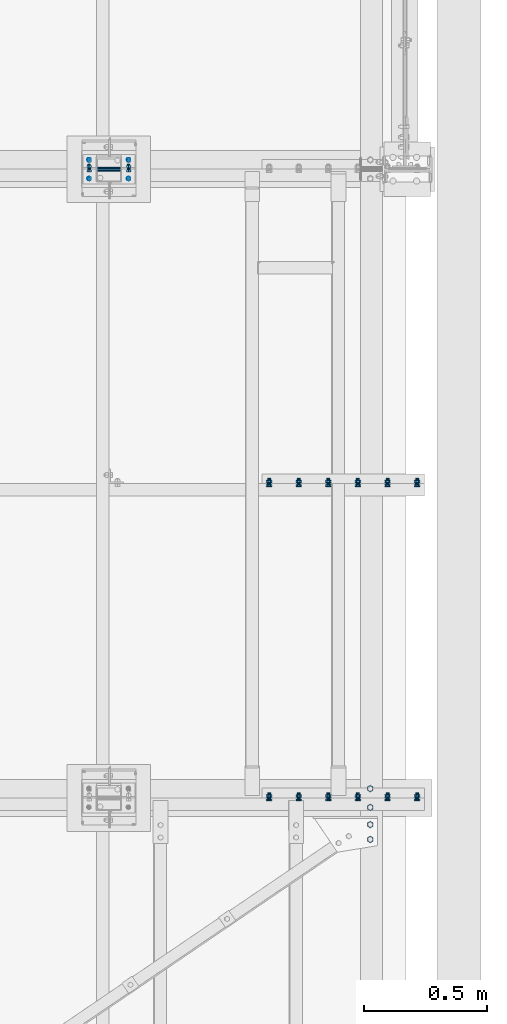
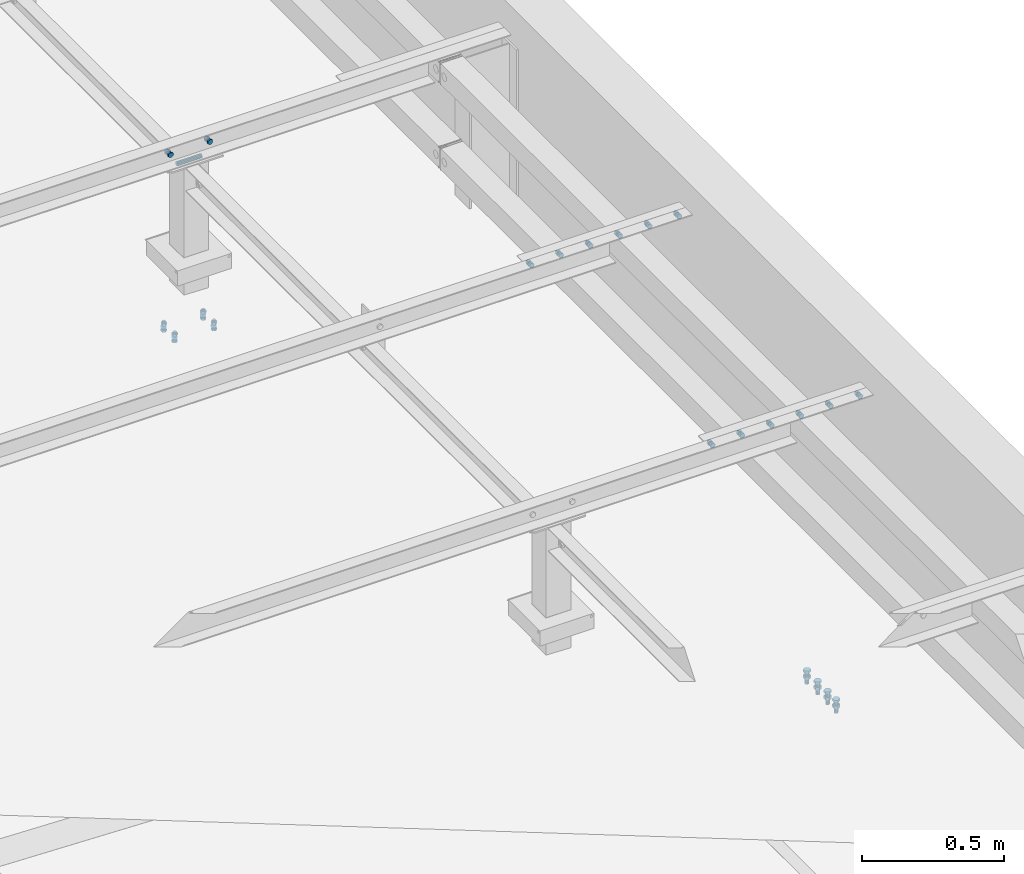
# One storey, part 344 of 3134: 7 mechanical fasteners, 7 elements without a shape of their own.
"""IFC2X3 building model written with IfcOpenShell, lengths in millimetres."""

from ifc_helpers import new_model, si_unit, frame, origin_with_axes, place, context, subcontext, project, spatial, faceted_brep, source, transform, mapped, material, type_object, element, aggregate, save


model = new_model("IFC2X3")

# Units and contexts
model_context = context("Model", 3, precision=1e-05, world=origin_with_axes())
body_context = subcontext(model_context, "Body", "Model", "MODEL_VIEW")
ifc_project = project(units=[si_unit("LENGTHUNIT", "METRE", prefix="MILLI"), si_unit("AREAUNIT", "SQUARE_METRE"), si_unit("VOLUMEUNIT", "CUBIC_METRE"), si_unit("MASSUNIT", "GRAM", prefix="KILO"), si_unit("TIMEUNIT", "SECOND"), si_unit("PLANEANGLEUNIT", "RADIAN"), si_unit("SOLIDANGLEUNIT", "STERADIAN"), si_unit("THERMODYNAMICTEMPERATUREUNIT", "DEGREE_CELSIUS"), si_unit("LUMINOUSINTENSITYUNIT", "LUMEN")], contexts=[model_context])

# Site, building, storey
site_placement = place(None, origin_with_axes())
site = spatial("IfcSite", under=ifc_project, at=site_placement, CompositionType="ELEMENT")
building_placement = place(site_placement, origin_with_axes())
building = spatial("IfcBuilding", under=site, at=building_placement, Name="Undefined", CompositionType="ELEMENT")
storey_placement = place(building_placement, origin_with_axes())
storey = spatial("IfcBuildingStorey", under=building, at=storey_placement, Name="Undefined", CompositionType="ELEMENT", Elevation=0.0)

# Assembly, mechanical fastener
assembly_1_placement = place(storey_placement, origin_with_axes())
assembly_1 = element("IfcElementAssembly", 1, at=assembly_1_placement, inside=storey, AssemblyPlace="NOTDEFINED", PredefinedType="RIGID_FRAME")
ifc_material = material(Name="8.8")
mechanical_fastener_type = type_object("IfcMechanicalFastenerType", Name="Bolt assembly")
shared_shape_1 = source(origin_with_axes(), body_context, "Body", "Brep", [
    faceted_brep([(7.0, 13.0000253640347, 0.0), (6.06217782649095, 13.0000253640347, 3.50000000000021), (3.49999999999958, 13.0000253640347, 6.06217782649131), (-7.25435187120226e-13, 13.0000253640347, 7.0), (-3.50000000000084, 13.0000253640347, 6.06217782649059), (-6.06217782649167, 13.0000253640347, 3.49999999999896), (-7.0, 13.0000253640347, -1.45087037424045e-12), (-6.06217782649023, 13.0000253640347, -3.50000000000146), (-3.49999999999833, 13.0000253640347, -6.06217782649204), (2.1685340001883e-12, 13.0000253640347, -7.0), (3.50000000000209, 13.0000253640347, -6.06217782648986), (6.0621778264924, 13.0000253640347, -3.4999999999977), (6.0621778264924, 15.0999999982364, -3.4999999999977), (3.50000000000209, 15.0999999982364, -6.06217782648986), (2.1685340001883e-12, 15.0999999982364, -7.0), (-3.49999999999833, 15.0999999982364, -6.06217782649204), (-6.06217782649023, 15.0999999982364, -3.50000000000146), (-7.0, 15.0999999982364, -1.45087037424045e-12), (-6.06217782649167, 15.0999999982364, 3.49999999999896), (-3.50000000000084, 15.0999999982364, 6.06217782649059), (-7.25435187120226e-13, 15.0999999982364, 7.0), (3.49999999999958, 15.0999999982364, 6.06217782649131), (6.06217782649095, 15.0999999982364, 3.50000000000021), (7.0, 15.0999999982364, 0.0)], [[[0, 1, 2, 3, 4, 5, 6, 7, 8, 9, 10, 11]], [[12, 13, 14, 15, 16, 17, 18, 19, 20, 21, 22, 23]], [[0, 23, 22, 1]], [[1, 22, 21, 2]], [[2, 21, 20, 3]], [[3, 20, 19, 4]], [[4, 19, 18, 5]], [[5, 18, 17, 6]], [[6, 17, 16, 7]], [[7, 16, 15, 8]], [[8, 15, 14, 9]], [[9, 14, 13, 10]], [[10, 13, 12, 11]], [[11, 12, 23, 0]]]),
])
mechanical_fastener_1_placement = place(assembly_1_placement, frame((78024.3451187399, 7688.0, 5102.2772055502), z_axis=(-0.99951962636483, 0.0, 0.0309922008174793), x_axis=(0.0, -1.0, 0.0)))
mechanical_fastener_1 = element("IfcMechanicalFastener", 2, at=mechanical_fastener_1_placement, type_object=mechanical_fastener_type, material=ifc_material, Name="Bolt assembly", NominalDiameter=12.0, NominalLength=2.0, context=body_context, shape_type="MappedRepresentation", body=[
    mapped(shared_shape_1, transform((0.0, -5.32963895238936e-10, -79.9999999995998))),
    mapped(shared_shape_1, transform((76.0, -5.32963895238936e-10, -79.9999999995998))),
    mapped(shared_shape_1, transform((0.0, 5.3114490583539e-10, 79.9999999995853))),
    mapped(shared_shape_1, transform((76.0, 5.3114490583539e-10, 79.9999999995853))),
])
aggregate(assembly_1, [mechanical_fastener_1])

assembly_2_placement = place(storey_placement, origin_with_axes())
assembly_2 = element("IfcElementAssembly", 3, at=assembly_2_placement, inside=storey, AssemblyPlace="NOTDEFINED", PredefinedType="RIGID_FRAME")
shared_shape_2 = source(origin_with_axes(), body_context, "Body", "Brep", [
    faceted_brep([(9.0, -50.0, 0.0), (7.79422863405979, -50.0, 4.50000000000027), (4.49999999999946, -50.0, 7.79422863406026), (-9.3270238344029e-13, -50.0, 9.0), (-4.50000000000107, -50.0, 7.79422863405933), (-7.79422863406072, -50.0, 4.49999999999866), (-9.0, -50.0, -1.86540476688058e-12), (-7.79422863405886, -50.0, -4.50000000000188), (-4.49999999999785, -50.0, -7.79422863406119), (2.78811514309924e-12, -50.0, -9.0), (4.50000000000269, -50.0, -7.7942286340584), (7.79422863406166, -50.0, -4.49999999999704), (7.79422863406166, 50.1, -4.49999999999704), (4.50000000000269, 50.1, -7.7942286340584), (2.78811514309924e-12, 50.1, -9.0), (-4.49999999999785, 50.1, -7.79422863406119), (-7.79422863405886, 50.1, -4.50000000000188), (-9.0, 50.1, -1.86540476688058e-12), (-7.79422863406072, 50.1, 4.49999999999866), (-4.50000000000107, 50.1, 7.79422863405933), (-9.3270238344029e-13, 50.1, 9.0), (4.49999999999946, 50.1, 7.79422863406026), (7.79422863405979, 50.1, 4.50000000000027), (9.0, 50.1, 0.0)], [[[0, 1, 2, 3, 4, 5, 6, 7, 8, 9, 10, 11]], [[12, 13, 14, 15, 16, 17, 18, 19, 20, 21, 22, 23]], [[0, 23, 22, 1]], [[1, 22, 21, 2]], [[2, 21, 20, 3]], [[3, 20, 19, 4]], [[4, 19, 18, 5]], [[5, 18, 17, 6]], [[6, 17, 16, 7]], [[7, 16, 15, 8]], [[8, 15, 14, 9]], [[9, 14, 13, 10]], [[10, 13, 12, 11]], [[11, 12, 23, 0]]]),
])
mechanical_fastener_2_placement = place(assembly_2_placement, frame((78025.0, 7650.0, 5830.0), z_axis=(0.0, 1.0, 0.0), x_axis=(0.0, 0.0, 1.0)))
mechanical_fastener_2 = element("IfcMechanicalFastener", 4, at=mechanical_fastener_2_placement, type_object=mechanical_fastener_type, material=ifc_material, Name="Bolt assembly", NominalDiameter=16.0, NominalLength=100.0, context=body_context, shape_type="MappedRepresentation", body=[
    mapped(shared_shape_2, transform((0.0, 0.0, 0.0))),
])
aggregate(assembly_2, [mechanical_fastener_2])

assembly_3_placement = place(storey_placement, origin_with_axes())
assembly_3 = element("IfcElementAssembly", 5, at=assembly_3_placement, inside=storey, AssemblyPlace="NOTDEFINED", PredefinedType="RIGID_FRAME")
shared_shape_3 = source(origin_with_axes(), body_context, "Body", "Brep", [
    faceted_brep([(10.9696551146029, -12.0, 0.0), (5.48482755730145, -12.0, 9.5), (-5.48482755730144, -12.0, 9.5), (-10.9696551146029, -12.0, 1.34339530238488e-15), (-5.48482755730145, -12.0, -9.5), (5.48482755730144, -12.0, -9.50000000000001), (5.48482755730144, -4.0, -9.50000000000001), (-5.48482755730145, -4.0, -9.5), (-10.9696551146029, -4.0, 1.34339530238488e-15), (-5.48482755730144, -4.0, 9.5), (5.48482755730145, -4.0, 9.5), (10.9696551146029, -4.0, 0.0), (6.0, -4.0, 0.0), (5.19615242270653, -4.0, 3.00000000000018), (2.99999999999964, -4.0, 5.19615242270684), (-6.21801588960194e-13, -4.0, 6.0), (-3.00000000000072, -4.0, 5.19615242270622), (-5.19615242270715, -4.0, 2.9999999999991), (-6.0, -4.0, -1.24360317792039e-12), (-5.19615242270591, -4.0, -3.00000000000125), (-2.99999999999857, -4.0, -5.19615242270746), (1.85874342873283e-12, -4.0, -6.0), (3.00000000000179, -4.0, -5.1961524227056), (5.19615242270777, -4.0, -2.99999999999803), (5.19615242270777, 21.0, -2.99999999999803), (3.00000000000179, 21.0, -5.1961524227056), (1.85874342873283e-12, 21.0, -6.0), (-2.99999999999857, 21.0, -5.19615242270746), (-5.19615242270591, 21.0, -3.00000000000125), (-6.0, 21.0, -1.24360317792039e-12), (-5.19615242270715, 21.0, 2.9999999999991), (-3.00000000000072, 21.0, 5.19615242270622), (-6.21801588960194e-13, 21.0, 6.0), (2.99999999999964, 21.0, 5.19615242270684), (5.19615242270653, 21.0, 3.00000000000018), (6.0, 21.0, 0.0), (10.9696551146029, 6.00000000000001, 0.0), (5.48482755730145, 6.00000000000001, 9.5), (-5.48482755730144, 6.00000000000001, 9.5), (-10.9696551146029, 6.00000000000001, 1.34339530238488e-15), (-5.48482755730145, 6.00000000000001, -9.5), (5.48482755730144, 6.00000000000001, -9.50000000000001), (5.48482755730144, 16.0, -9.50000000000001), (-5.48482755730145, 16.0, -9.5), (-10.9696551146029, 16.0, 1.34339530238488e-15), (-5.48482755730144, 16.0, 9.5), (5.48482755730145, 16.0, 9.5), (10.9696551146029, 16.0, 0.0)], [[[0, 1, 2, 3, 4, 5]], [[6, 7, 8, 9, 10, 11]], [[0, 11, 10, 1]], [[1, 10, 9, 2]], [[2, 9, 8, 3]], [[3, 8, 7, 4]], [[4, 7, 6, 5]], [[5, 6, 11, 0]], [[12, 13, 14, 15, 16, 17, 18, 19, 20, 21, 22, 23]], [[24, 25, 26, 27, 28, 29, 30, 31, 32, 33, 34, 35]], [[12, 35, 34, 13]], [[13, 34, 33, 14]], [[14, 33, 32, 15]], [[15, 32, 31, 16]], [[16, 31, 30, 17]], [[17, 30, 29, 18]], [[18, 29, 28, 19]], [[19, 28, 27, 20]], [[20, 27, 26, 21]], [[21, 26, 25, 22]], [[22, 25, 24, 23]], [[23, 24, 35, 12]], [[36, 37, 38, 39, 40, 41]], [[42, 43, 44, 45, 46, 47]], [[36, 47, 46, 37]], [[37, 46, 45, 38]], [[38, 45, 44, 39]], [[39, 44, 43, 40]], [[40, 43, 42, 41]], [[41, 42, 47, 36]]]),
    faceted_brep([(7.0, -3.9, 0.0), (6.06217782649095, -3.9, 3.50000000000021), (3.49999999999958, -3.9, 6.06217782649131), (-7.25435187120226e-13, -3.9, 7.0), (-3.50000000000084, -3.9, 6.06217782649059), (-6.06217782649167, -3.9, 3.49999999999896), (-7.0, -3.9, -1.45087037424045e-12), (-6.06217782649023, -3.9, -3.50000000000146), (-3.49999999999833, -3.9, -6.06217782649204), (2.1685340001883e-12, -3.9, -7.0), (3.50000000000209, -3.9, -6.06217782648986), (6.0621778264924, -3.9, -3.4999999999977), (6.0621778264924, 0.0999999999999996, -3.4999999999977), (3.50000000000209, 0.0999999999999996, -6.06217782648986), (2.1685340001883e-12, 0.0999999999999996, -7.0), (-3.49999999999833, 0.0999999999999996, -6.06217782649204), (-6.06217782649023, 0.0999999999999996, -3.50000000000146), (-7.0, 0.0999999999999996, -1.45087037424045e-12), (-6.06217782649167, 0.0999999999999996, 3.49999999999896), (-3.50000000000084, 0.0999999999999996, 6.06217782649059), (-7.25435187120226e-13, 0.0999999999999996, 7.0), (3.49999999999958, 0.0999999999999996, 6.06217782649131), (6.06217782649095, 0.0999999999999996, 3.50000000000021), (7.0, 0.0999999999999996, 0.0), (7.0, -0.1, 0.0), (6.06217782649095, -0.1, 3.50000000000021), (3.49999999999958, -0.1, 6.06217782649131), (-7.25435187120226e-13, -0.1, 7.0), (-3.50000000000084, -0.1, 6.06217782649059), (-6.06217782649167, -0.1, 3.49999999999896), (-7.0, -0.1, -1.45087037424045e-12), (-6.06217782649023, -0.1, -3.50000000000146), (-3.49999999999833, -0.1, -6.06217782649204), (2.1685340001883e-12, -0.1, -7.0), (3.50000000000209, -0.1, -6.06217782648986), (6.0621778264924, -0.1, -3.4999999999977), (6.0621778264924, 6.00000000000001, -3.4999999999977), (3.50000000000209, 6.00000000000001, -6.06217782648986), (2.1685340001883e-12, 6.00000000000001, -7.0), (-3.49999999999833, 6.00000000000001, -6.06217782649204), (-6.06217782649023, 6.00000000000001, -3.50000000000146), (-7.0, 6.00000000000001, -1.45087037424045e-12), (-6.06217782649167, 6.00000000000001, 3.49999999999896), (-3.50000000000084, 6.00000000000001, 6.06217782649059), (-7.25435187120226e-13, 6.00000000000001, 7.0), (3.49999999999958, 6.00000000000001, 6.06217782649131), (6.06217782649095, 6.00000000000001, 3.50000000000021), (7.0, 6.00000000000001, 0.0)], [[[0, 1, 2, 3, 4, 5, 6, 7, 8, 9, 10, 11]], [[12, 13, 14, 15, 16, 17, 18, 19, 20, 21, 22, 23]], [[0, 23, 22, 1]], [[1, 22, 21, 2]], [[2, 21, 20, 3]], [[3, 20, 19, 4]], [[4, 19, 18, 5]], [[5, 18, 17, 6]], [[6, 17, 16, 7]], [[7, 16, 15, 8]], [[8, 15, 14, 9]], [[9, 14, 13, 10]], [[10, 13, 12, 11]], [[11, 12, 23, 0]], [[24, 25, 26, 27, 28, 29, 30, 31, 32, 33, 34, 35]], [[36, 37, 38, 39, 40, 41, 42, 43, 44, 45, 46, 47]], [[24, 47, 46, 25]], [[25, 46, 45, 26]], [[26, 45, 44, 27]], [[27, 44, 43, 28]], [[28, 43, 42, 29]], [[29, 42, 41, 30]], [[30, 41, 40, 31]], [[31, 40, 39, 32]], [[32, 39, 38, 33]], [[33, 38, 37, 34]], [[34, 37, 36, 35]], [[35, 36, 47, 24]]]),
])
mechanical_fastener_3_placement = place(assembly_3_placement, frame((78025.0, 7650.0, 5885.0), z_axis=(1.0, 0.0, 0.0), x_axis=(0.0, 0.0, -1.0)))
mechanical_fastener_3 = element("IfcMechanicalFastener", 6, at=mechanical_fastener_3_placement, type_object=mechanical_fastener_type, material=ifc_material, Name="Bolt assembly", NominalDiameter=12.0, NominalLength=25.0, context=body_context, shape_type="MappedRepresentation", body=[
    mapped(shared_shape_3, transform((0.0, -5.32963895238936e-10, -79.9999999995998))),
    mapped(shared_shape_3, transform((0.0, 5.3114490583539e-10, 79.9999999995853))),
])
aggregate(assembly_3, [mechanical_fastener_3])

assembly_4_placement = place(storey_placement, origin_with_axes())
assembly_4 = element("IfcElementAssembly", 7, at=assembly_4_placement, inside=storey, Name="UPN260", AssemblyPlace="NOTDEFINED", PredefinedType="RIGID_FRAME")
shared_shape_4 = source(origin_with_axes(), body_context, "Body", "Brep", [
    faceted_brep([(13.856406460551, -10.0, 0.0), (6.92820323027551, -10.0, 12.0), (-6.92820323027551, -10.0, 12.0), (-13.856406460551, -10.0, 1.69692038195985e-15), (-6.92820323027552, -10.0, -12.0), (6.9282032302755, -10.0, -12.0), (6.9282032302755, 0.0, -12.0), (-6.92820323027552, 0.0, -12.0), (-13.856406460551, 0.0, 1.69692038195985e-15), (-6.92820323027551, 0.0, 12.0), (6.92820323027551, 0.0, 12.0), (13.856406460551, 0.0, 0.0), (8.0, 0.0, 0.0), (6.92820323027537, 0.0, 4.00000000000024), (3.99999999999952, 0.0, 6.92820323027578), (-8.29068785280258e-13, 0.0, 8.0), (-4.00000000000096, 0.0, 6.92820323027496), (-6.9282032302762, 0.0, 3.99999999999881), (-8.0, 0.0, -1.65813757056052e-12), (-6.92820323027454, 0.0, -4.00000000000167), (-3.99999999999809, 0.0, -6.92820323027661), (2.47832457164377e-12, 0.0, -8.0), (4.00000000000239, 0.0, -6.92820323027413), (6.92820323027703, 0.0, -3.99999999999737), (6.92820323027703, 49.9999999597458, -3.99999999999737), (4.00000000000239, 49.9999999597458, -6.92820323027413), (2.47832457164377e-12, 49.9999999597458, -8.0), (-3.99999999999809, 49.9999999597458, -6.92820323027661), (-6.92820323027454, 49.9999999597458, -4.00000000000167), (-8.0, 49.9999999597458, -1.65813757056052e-12), (-6.9282032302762, 49.9999999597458, 3.99999999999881), (-4.00000000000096, 49.9999999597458, 6.92820323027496), (-8.29068785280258e-13, 49.9999999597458, 8.0), (3.99999999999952, 49.9999999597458, 6.92820323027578), (6.92820323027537, 49.9999999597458, 4.00000000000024), (8.0, 49.9999999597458, 0.0), (13.856406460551, 13.9999999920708, 0.0), (6.92820323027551, 13.9999999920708, 12.0), (-6.92820323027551, 13.9999999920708, 12.0), (-13.856406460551, 13.9999999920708, 1.69692038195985e-15), (-6.92820323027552, 13.9999999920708, -12.0), (6.9282032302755, 13.9999999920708, -12.0), (6.9282032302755, 27.0, -12.0), (-6.92820323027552, 27.0, -12.0), (-13.856406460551, 27.0, 1.69692038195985e-15), (-6.92820323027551, 27.0, 12.0), (6.92820323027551, 27.0, 12.0), (13.856406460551, 27.0, 0.0)], [[[0, 1, 2, 3, 4, 5]], [[6, 7, 8, 9, 10, 11]], [[0, 11, 10, 1]], [[1, 10, 9, 2]], [[2, 9, 8, 3]], [[3, 8, 7, 4]], [[4, 7, 6, 5]], [[5, 6, 11, 0]], [[12, 13, 14, 15, 16, 17, 18, 19, 20, 21, 22, 23]], [[24, 25, 26, 27, 28, 29, 30, 31, 32, 33, 34, 35]], [[12, 35, 34, 13]], [[13, 34, 33, 14]], [[14, 33, 32, 15]], [[15, 32, 31, 16]], [[16, 31, 30, 17]], [[17, 30, 29, 18]], [[18, 29, 28, 19]], [[19, 28, 27, 20]], [[20, 27, 26, 21]], [[21, 26, 25, 22]], [[22, 25, 24, 23]], [[23, 24, 35, 12]], [[36, 37, 38, 39, 40, 41]], [[42, 43, 44, 45, 46, 47]], [[36, 47, 46, 37]], [[37, 46, 45, 38]], [[38, 45, 44, 39]], [[39, 44, 43, 40]], [[40, 43, 42, 41]], [[41, 42, 47, 36]]]),
    faceted_brep([(9.0, -3.46568413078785e-07, 0.0), (7.79422863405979, -3.46568413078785e-07, 4.50000000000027), (4.49999999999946, -3.46568413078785e-07, 7.79422863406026), (-9.3270238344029e-13, -3.46568413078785e-07, 9.0), (-4.50000000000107, -3.46568413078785e-07, 7.79422863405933), (-7.79422863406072, -3.46568413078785e-07, 4.49999999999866), (-9.0, -3.46568413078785e-07, -1.86540476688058e-12), (-7.79422863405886, -3.46568413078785e-07, -4.50000000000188), (-4.49999999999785, -3.46568413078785e-07, -7.79422863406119), (2.78811514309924e-12, -3.46568413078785e-07, -9.0), (4.50000000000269, -3.46568413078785e-07, -7.7942286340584), (7.79422863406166, -3.46568413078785e-07, -4.49999999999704), (7.79422863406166, 14.1000000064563, -4.49999999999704), (4.50000000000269, 14.1000000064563, -7.7942286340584), (2.78811514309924e-12, 14.1000000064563, -9.0), (-4.49999999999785, 14.1000000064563, -7.79422863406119), (-7.79422863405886, 14.1000000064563, -4.50000000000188), (-9.0, 14.1000000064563, -1.86540476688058e-12), (-7.79422863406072, 14.1000000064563, 4.49999999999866), (-4.50000000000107, 14.1000000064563, 7.79422863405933), (-9.3270238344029e-13, 14.1000000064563, 9.0), (4.49999999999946, 14.1000000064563, 7.79422863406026), (7.79422863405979, 14.1000000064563, 4.50000000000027), (9.0, 14.1000000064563, 0.0)], [[[0, 1, 2, 3, 4, 5, 6, 7, 8, 9, 10, 11]], [[12, 13, 14, 15, 16, 17, 18, 19, 20, 21, 22, 23]], [[0, 23, 22, 1]], [[1, 22, 21, 2]], [[2, 21, 20, 3]], [[3, 20, 19, 4]], [[4, 19, 18, 5]], [[5, 18, 17, 6]], [[6, 17, 16, 7]], [[7, 16, 15, 8]], [[8, 15, 14, 9]], [[9, 14, 13, 10]], [[10, 13, 12, 11]], [[11, 12, 23, 0]]]),
])
mechanical_fastener_4_placement = place(assembly_4_placement, frame((79085.0000001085, 4932.0, 4783.72248606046), z_axis=(-0.99999999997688, 0.0, -6.80000067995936e-06), x_axis=(0.0, 1.0, 0.0)))
mechanical_fastener_4 = element("IfcMechanicalFastener", 8, at=mechanical_fastener_4_placement, type_object=mechanical_fastener_type, material=ifc_material, Name="Bolt assembly", NominalDiameter=16.0, NominalLength=50.0, context=body_context, shape_type="MappedRepresentation", body=[
    mapped(shared_shape_4, transform((0.0, 0.0, 0.0))),
    mapped(shared_shape_4, transform((59.9999999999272, 0.0, 5.40239852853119e-10))),
    mapped(shared_shape_4, transform((130.0, 0.0, 0.0))),
    mapped(shared_shape_4, transform((206.0, 0.0, 0.0))),
])
aggregate(assembly_4, [mechanical_fastener_4])

assembly_5_placement = place(storey_placement, origin_with_axes())
assembly_5 = element("IfcElementAssembly", 9, at=assembly_5_placement, inside=storey, AssemblyPlace="NOTDEFINED", PredefinedType="RIGID_FRAME")
shared_shape_5 = source(origin_with_axes(), body_context, "Body", "Brep", [
    faceted_brep([(10.9696551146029, -12.0, 0.0), (5.48482755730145, -12.0, 9.5), (-5.48482755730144, -12.0, 9.5), (-10.9696551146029, -12.0, 1.34339530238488e-15), (-5.48482755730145, -12.0, -9.5), (5.48482755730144, -12.0, -9.50000000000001), (5.48482755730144, -4.0, -9.50000000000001), (-5.48482755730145, -4.0, -9.5), (-10.9696551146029, -4.0, 1.34339530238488e-15), (-5.48482755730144, -4.0, 9.5), (5.48482755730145, -4.0, 9.5), (10.9696551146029, -4.0, 0.0), (6.0, -4.0, 0.0), (5.19615242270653, -4.0, 3.00000000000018), (2.99999999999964, -4.0, 5.19615242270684), (-6.21801588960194e-13, -4.0, 6.0), (-3.00000000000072, -4.0, 5.19615242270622), (-5.19615242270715, -4.0, 2.9999999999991), (-6.0, -4.0, -1.24360317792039e-12), (-5.19615242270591, -4.0, -3.00000000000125), (-2.99999999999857, -4.0, -5.19615242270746), (1.85874342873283e-12, -4.0, -6.0), (3.00000000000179, -4.0, -5.1961524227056), (5.19615242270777, -4.0, -2.99999999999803), (5.19615242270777, 21.0, -2.99999999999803), (3.00000000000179, 21.0, -5.1961524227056), (1.85874342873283e-12, 21.0, -6.0), (-2.99999999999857, 21.0, -5.19615242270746), (-5.19615242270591, 21.0, -3.00000000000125), (-6.0, 21.0, -1.24360317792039e-12), (-5.19615242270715, 21.0, 2.9999999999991), (-3.00000000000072, 21.0, 5.19615242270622), (-6.21801588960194e-13, 21.0, 6.0), (2.99999999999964, 21.0, 5.19615242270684), (5.19615242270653, 21.0, 3.00000000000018), (6.0, 21.0, 0.0), (10.9696551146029, 4.00000000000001, 0.0), (5.48482755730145, 4.00000000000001, 9.5), (-5.48482755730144, 4.00000000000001, 9.5), (-10.9696551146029, 4.00000000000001, 1.34339530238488e-15), (-5.48482755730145, 4.00000000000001, -9.5), (5.48482755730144, 4.00000000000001, -9.50000000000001), (5.48482755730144, 14.0, -9.50000000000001), (-5.48482755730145, 14.0, -9.5), (-10.9696551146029, 14.0, 1.34339530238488e-15), (-5.48482755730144, 14.0, 9.5), (5.48482755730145, 14.0, 9.5), (10.9696551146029, 14.0, 0.0)], [[[0, 1, 2, 3, 4, 5]], [[6, 7, 8, 9, 10, 11]], [[0, 11, 10, 1]], [[1, 10, 9, 2]], [[2, 9, 8, 3]], [[3, 8, 7, 4]], [[4, 7, 6, 5]], [[5, 6, 11, 0]], [[12, 13, 14, 15, 16, 17, 18, 19, 20, 21, 22, 23]], [[24, 25, 26, 27, 28, 29, 30, 31, 32, 33, 34, 35]], [[12, 35, 34, 13]], [[13, 34, 33, 14]], [[14, 33, 32, 15]], [[15, 32, 31, 16]], [[16, 31, 30, 17]], [[17, 30, 29, 18]], [[18, 29, 28, 19]], [[19, 28, 27, 20]], [[20, 27, 26, 21]], [[21, 26, 25, 22]], [[22, 25, 24, 23]], [[23, 24, 35, 12]], [[36, 37, 38, 39, 40, 41]], [[42, 43, 44, 45, 46, 47]], [[36, 47, 46, 37]], [[37, 46, 45, 38]], [[38, 45, 44, 39]], [[39, 44, 43, 40]], [[40, 43, 42, 41]], [[41, 42, 47, 36]]]),
    faceted_brep([(7.0, -0.1, 0.0), (6.06217782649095, -0.1, 3.50000000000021), (3.49999999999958, -0.1, 6.06217782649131), (-7.25435187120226e-13, -0.1, 7.0), (-3.50000000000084, -0.1, 6.06217782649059), (-6.06217782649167, -0.1, 3.49999999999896), (-7.0, -0.1, -1.45087037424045e-12), (-6.06217782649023, -0.1, -3.50000000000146), (-3.49999999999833, -0.1, -6.06217782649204), (2.1685340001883e-12, -0.1, -7.0), (3.50000000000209, -0.1, -6.06217782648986), (6.0621778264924, -0.1, -3.4999999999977), (6.0621778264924, 4.00000000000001, -3.4999999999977), (3.50000000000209, 4.00000000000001, -6.06217782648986), (2.1685340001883e-12, 4.00000000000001, -7.0), (-3.49999999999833, 4.00000000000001, -6.06217782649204), (-6.06217782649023, 4.00000000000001, -3.50000000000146), (-7.0, 4.00000000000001, -1.45087037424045e-12), (-6.06217782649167, 4.00000000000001, 3.49999999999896), (-3.50000000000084, 4.00000000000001, 6.06217782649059), (-7.25435187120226e-13, 4.00000000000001, 7.0), (3.49999999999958, 4.00000000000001, 6.06217782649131), (6.06217782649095, 4.00000000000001, 3.50000000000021), (7.0, 4.00000000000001, 0.0), (7.0, -3.9, 0.0), (6.06217782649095, -3.9, 3.50000000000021), (3.49999999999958, -3.9, 6.06217782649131), (-7.25435187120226e-13, -3.9, 7.0), (-3.50000000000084, -3.9, 6.06217782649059), (-6.06217782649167, -3.9, 3.49999999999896), (-7.0, -3.9, -1.45087037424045e-12), (-6.06217782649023, -3.9, -3.50000000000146), (-3.49999999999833, -3.9, -6.06217782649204), (2.1685340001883e-12, -3.9, -7.0), (3.50000000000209, -3.9, -6.06217782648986), (6.0621778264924, -3.9, -3.4999999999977), (6.0621778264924, 0.0999999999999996, -3.4999999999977), (3.50000000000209, 0.0999999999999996, -6.06217782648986), (2.1685340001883e-12, 0.0999999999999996, -7.0), (-3.49999999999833, 0.0999999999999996, -6.06217782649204), (-6.06217782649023, 0.0999999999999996, -3.50000000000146), (-7.0, 0.0999999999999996, -1.45087037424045e-12), (-6.06217782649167, 0.0999999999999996, 3.49999999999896), (-3.50000000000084, 0.0999999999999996, 6.06217782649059), (-7.25435187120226e-13, 0.0999999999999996, 7.0), (3.49999999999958, 0.0999999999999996, 6.06217782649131), (6.06217782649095, 0.0999999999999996, 3.50000000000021), (7.0, 0.0999999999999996, 0.0)], [[[0, 1, 2, 3, 4, 5, 6, 7, 8, 9, 10, 11]], [[12, 13, 14, 15, 16, 17, 18, 19, 20, 21, 22, 23]], [[0, 23, 22, 1]], [[1, 22, 21, 2]], [[2, 21, 20, 3]], [[3, 20, 19, 4]], [[4, 19, 18, 5]], [[5, 18, 17, 6]], [[6, 17, 16, 7]], [[7, 16, 15, 8]], [[8, 15, 14, 9]], [[9, 14, 13, 10]], [[10, 13, 12, 11]], [[11, 12, 23, 0]], [[24, 25, 26, 27, 28, 29, 30, 31, 32, 33, 34, 35]], [[36, 37, 38, 39, 40, 41, 42, 43, 44, 45, 46, 47]], [[24, 47, 46, 25]], [[25, 46, 45, 26]], [[26, 45, 44, 27]], [[27, 44, 43, 28]], [[28, 43, 42, 29]], [[29, 42, 41, 30]], [[30, 41, 40, 31]], [[31, 40, 39, 32]], [[32, 39, 38, 33]], [[33, 38, 37, 34]], [[34, 37, 36, 35]], [[35, 36, 47, 24]]]),
])
mechanical_fastener_5_placement = place(assembly_5_placement, frame((78675.0, 6375.0, 5928.0), z_axis=(0.0, 0.0, 1.0), x_axis=(1.0, 0.0, 0.0)))
mechanical_fastener_5 = element("IfcMechanicalFastener", 10, at=mechanical_fastener_5_placement, type_object=mechanical_fastener_type, material=ifc_material, Name="Bolt assembly", NominalDiameter=12.0, NominalLength=25.0, context=body_context, shape_type="MappedRepresentation", body=[
    mapped(shared_shape_5, transform((0.0, 0.0, 0.0))),
    mapped(shared_shape_5, transform((120.0, 0.0, 0.0))),
    mapped(shared_shape_5, transform((240.0, 0.0, 0.0))),
    mapped(shared_shape_5, transform((360.0, 0.0, 0.0))),
    mapped(shared_shape_5, transform((480.0, 0.0, 0.0))),
    mapped(shared_shape_5, transform((600.0, 0.0, 0.0))),
])
aggregate(assembly_5, [mechanical_fastener_5])

assembly_6_placement = place(storey_placement, origin_with_axes())
assembly_6 = element("IfcElementAssembly", 11, at=assembly_6_placement, inside=storey, AssemblyPlace="NOTDEFINED", PredefinedType="RIGID_FRAME")
mechanical_fastener_6_placement = place(assembly_6_placement, frame((78675.0, 5100.0, 5928.0), z_axis=(0.0, 0.0, 1.0), x_axis=(1.0, 0.0, 0.0)))
mechanical_fastener_6 = element("IfcMechanicalFastener", 12, at=mechanical_fastener_6_placement, type_object=mechanical_fastener_type, material=ifc_material, Name="Bolt assembly", NominalDiameter=12.0, NominalLength=25.0, context=body_context, shape_type="MappedRepresentation", body=[
    mapped(shared_shape_5, transform((0.0, 0.0, 0.0))),
    mapped(shared_shape_5, transform((120.0, 0.0, 0.0))),
    mapped(shared_shape_5, transform((240.0, 0.0, 0.0))),
    mapped(shared_shape_5, transform((360.0, 0.0, 0.0))),
    mapped(shared_shape_5, transform((480.0, 0.0, 0.0))),
    mapped(shared_shape_5, transform((600.0, 0.0, 0.0))),
])
aggregate(assembly_6, [mechanical_fastener_6])

assembly_7_placement = place(storey_placement, origin_with_axes())
assembly_7 = element("IfcElementAssembly", 13, at=assembly_7_placement, inside=storey, Name="300", AssemblyPlace="NOTDEFINED", PredefinedType="RIGID_FRAME")
shared_shape_6 = source(origin_with_axes(), body_context, "Body", "Brep", [
    faceted_brep([(10.9696551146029, -10.2004593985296, 0.0), (5.48482755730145, -10.2004593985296, 9.5), (-5.48482755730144, -10.2004593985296, 9.5), (-10.9696551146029, -10.2004593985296, 1.34339530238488e-15), (-5.48482755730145, -10.2004593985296, -9.5), (5.48482755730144, -10.2004593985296, -9.50000000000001), (5.48482755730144, -2.20045939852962, -9.50000000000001), (-5.48482755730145, -2.20045939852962, -9.5), (-10.9696551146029, -2.20045939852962, 1.34339530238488e-15), (-5.48482755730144, -2.20045939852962, 9.5), (5.48482755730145, -2.20045939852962, 9.5), (10.9696551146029, -2.20045939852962, 0.0), (6.0, -2.20045939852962, 0.0), (5.19615242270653, -2.20045939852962, 3.00000000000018), (2.99999999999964, -2.20045939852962, 5.19615242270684), (-6.21801588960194e-13, -2.20045939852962, 6.0), (-3.00000000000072, -2.20045939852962, 5.19615242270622), (-5.19615242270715, -2.20045939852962, 2.9999999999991), (-6.0, -2.20045939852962, -1.24360317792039e-12), (-5.19615242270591, -2.20045939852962, -3.00000000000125), (-2.99999999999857, -2.20045939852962, -5.19615242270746), (1.85874342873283e-12, -2.20045939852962, -6.0), (3.00000000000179, -2.20045939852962, -5.1961524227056), (5.19615242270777, -2.20045939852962, -2.99999999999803), (5.19615242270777, 32.7995406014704, -2.99999999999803), (3.00000000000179, 32.7995406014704, -5.1961524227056), (1.85874342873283e-12, 32.7995406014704, -6.0), (-2.99999999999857, 32.7995406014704, -5.19615242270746), (-5.19615242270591, 32.7995406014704, -3.00000000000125), (-6.0, 32.7995406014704, -1.24360317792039e-12), (-5.19615242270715, 32.7995406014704, 2.9999999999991), (-3.00000000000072, 32.7995406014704, 5.19615242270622), (-6.21801588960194e-13, 32.7995406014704, 6.0), (2.99999999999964, 32.7995406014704, 5.19615242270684), (5.19615242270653, 32.7995406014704, 3.00000000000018), (6.0, 32.7995406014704, 0.0), (10.9696551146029, 17.0008987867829, 0.0), (5.48482755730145, 17.0008987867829, 9.5), (-5.48482755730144, 17.0008987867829, 9.5), (-10.9696551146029, 17.0008987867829, 1.34339530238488e-15), (-5.48482755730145, 17.0008987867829, -9.5), (5.48482755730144, 17.0008987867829, -9.50000000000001), (5.48482755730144, 27.0008987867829, -9.50000000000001), (-5.48482755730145, 27.0008987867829, -9.5), (-10.9696551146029, 27.0008987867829, 1.34339530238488e-15), (-5.48482755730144, 27.0008987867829, 9.5), (5.48482755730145, 27.0008987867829, 9.5), (10.9696551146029, 27.0008987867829, 0.0)], [[[0, 1, 2, 3, 4, 5]], [[6, 7, 8, 9, 10, 11]], [[0, 11, 10, 1]], [[1, 10, 9, 2]], [[2, 9, 8, 3]], [[3, 8, 7, 4]], [[4, 7, 6, 5]], [[5, 6, 11, 0]], [[12, 13, 14, 15, 16, 17, 18, 19, 20, 21, 22, 23]], [[24, 25, 26, 27, 28, 29, 30, 31, 32, 33, 34, 35]], [[12, 35, 34, 13]], [[13, 34, 33, 14]], [[14, 33, 32, 15]], [[15, 32, 31, 16]], [[16, 31, 30, 17]], [[17, 30, 29, 18]], [[18, 29, 28, 19]], [[19, 28, 27, 20]], [[20, 27, 26, 21]], [[21, 26, 25, 22]], [[22, 25, 24, 23]], [[23, 24, 35, 12]], [[36, 37, 38, 39, 40, 41]], [[42, 43, 44, 45, 46, 47]], [[36, 47, 46, 37]], [[37, 46, 45, 38]], [[38, 45, 44, 39]], [[39, 44, 43, 40]], [[40, 43, 42, 41]], [[41, 42, 47, 36]]]),
    faceted_brep([(7.0, 8.90089878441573, 0.0), (6.06217782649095, 8.90089878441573, 3.50000000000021), (3.49999999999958, 8.90089878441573, 6.06217782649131), (-7.25435187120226e-13, 8.90089878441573, 7.0), (-3.50000000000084, 8.90089878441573, 6.06217782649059), (-6.06217782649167, 8.90089878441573, 3.49999999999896), (-7.0, 8.90089878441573, -1.45087037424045e-12), (-6.06217782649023, 8.90089878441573, -3.50000000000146), (-3.49999999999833, 8.90089878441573, -6.06217782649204), (2.1685340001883e-12, 8.90089878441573, -7.0), (3.50000000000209, 8.90089878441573, -6.06217782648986), (6.0621778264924, 8.90089878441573, -3.4999999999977), (6.0621778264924, 17.0008987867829, -3.4999999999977), (3.50000000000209, 17.0008987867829, -6.06217782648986), (2.1685340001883e-12, 17.0008987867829, -7.0), (-3.49999999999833, 17.0008987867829, -6.06217782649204), (-6.06217782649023, 17.0008987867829, -3.50000000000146), (-7.0, 17.0008987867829, -1.45087037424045e-12), (-6.06217782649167, 17.0008987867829, 3.49999999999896), (-3.50000000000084, 17.0008987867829, 6.06217782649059), (-7.25435187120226e-13, 17.0008987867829, 7.0), (3.49999999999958, 17.0008987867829, 6.06217782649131), (6.06217782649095, 17.0008987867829, 3.50000000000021), (7.0, 17.0008987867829, 0.0), (7.0, -2.10045939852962, 0.0), (6.06217782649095, -2.10045939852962, 3.50000000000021), (3.49999999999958, -2.10045939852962, 6.06217782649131), (-7.25435187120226e-13, -2.10045939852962, 7.0), (-3.50000000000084, -2.10045939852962, 6.06217782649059), (-6.06217782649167, -2.10045939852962, 3.49999999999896), (-7.0, -2.10045939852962, -1.45087037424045e-12), (-6.06217782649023, -2.10045939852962, -3.50000000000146), (-3.49999999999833, -2.10045939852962, -6.06217782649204), (2.1685340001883e-12, -2.10045939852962, -7.0), (3.50000000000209, -2.10045939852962, -6.06217782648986), (6.0621778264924, -2.10045939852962, -3.4999999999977), (6.0621778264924, 7.09954041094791, -3.4999999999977), (3.50000000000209, 7.09954041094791, -6.06217782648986), (2.1685340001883e-12, 7.09954041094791, -7.0), (-3.49999999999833, 7.09954041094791, -6.06217782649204), (-6.06217782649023, 7.09954041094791, -3.50000000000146), (-7.0, 7.09954041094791, -1.45087037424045e-12), (-6.06217782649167, 7.09954041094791, 3.49999999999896), (-3.50000000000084, 7.09954041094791, 6.06217782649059), (-7.25435187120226e-13, 7.09954041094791, 7.0), (3.49999999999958, 7.09954041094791, 6.06217782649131), (6.06217782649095, 7.09954041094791, 3.50000000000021), (7.0, 7.09954041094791, 0.0)], [[[0, 1, 2, 3, 4, 5, 6, 7, 8, 9, 10, 11]], [[12, 13, 14, 15, 16, 17, 18, 19, 20, 21, 22, 23]], [[0, 23, 22, 1]], [[1, 22, 21, 2]], [[2, 21, 20, 3]], [[3, 20, 19, 4]], [[4, 19, 18, 5]], [[5, 18, 17, 6]], [[6, 17, 16, 7]], [[7, 16, 15, 8]], [[8, 15, 14, 9]], [[9, 14, 13, 10]], [[10, 13, 12, 11]], [[11, 12, 23, 0]], [[24, 25, 26, 27, 28, 29, 30, 31, 32, 33, 34, 35]], [[36, 37, 38, 39, 40, 41, 42, 43, 44, 45, 46, 47]], [[24, 47, 46, 25]], [[25, 46, 45, 26]], [[26, 45, 44, 27]], [[27, 44, 43, 28]], [[28, 43, 42, 29]], [[29, 42, 41, 30]], [[30, 41, 40, 31]], [[31, 40, 39, 32]], [[32, 39, 38, 33]], [[33, 38, 37, 34]], [[34, 37, 36, 35]], [[35, 36, 47, 24]]]),
])
mechanical_fastener_7_placement = place(assembly_7_placement, frame((78024.5351187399, 7688.0, 5108.2872055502), z_axis=(-0.99951962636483, 0.0, 0.0309922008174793), x_axis=(0.0, -1.0, 0.0)))
mechanical_fastener_7 = element("IfcMechanicalFastener", 14, at=mechanical_fastener_7_placement, type_object=mechanical_fastener_type, material=ifc_material, Name="Bolt assembly", NominalDiameter=12.0, NominalLength=35.0, context=body_context, shape_type="MappedRepresentation", body=[
    mapped(shared_shape_6, transform((0.0, -5.32963895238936e-10, -79.9999999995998))),
    mapped(shared_shape_6, transform((76.0, -5.32963895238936e-10, -79.9999999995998))),
    mapped(shared_shape_6, transform((0.0, 5.3114490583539e-10, 79.9999999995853))),
    mapped(shared_shape_6, transform((76.0, 5.3114490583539e-10, 79.9999999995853))),
])
aggregate(assembly_7, [mechanical_fastener_7])

save(model, "model.ifc")
